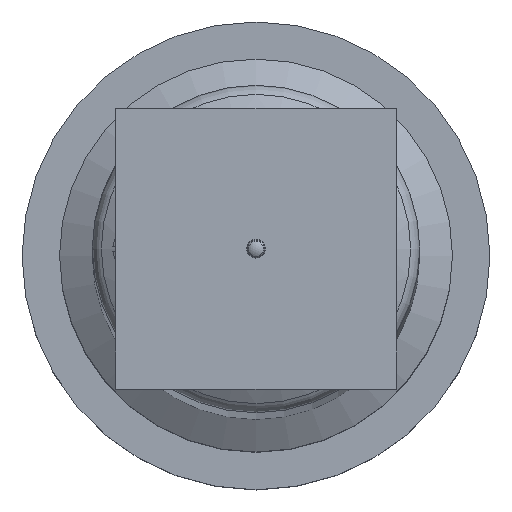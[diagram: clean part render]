
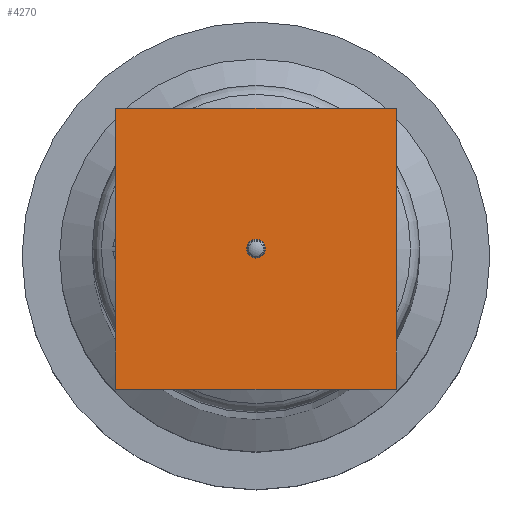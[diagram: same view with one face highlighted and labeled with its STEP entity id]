
A CAD part, top view. The second image highlights one B-rep face of the part: STEP entity #4270.
In plain terms, the highlighted planar face has unit normal (0, 0, -1).
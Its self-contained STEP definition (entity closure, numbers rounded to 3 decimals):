
#26 = EDGE_CURVE ( 'NONE', #6036, #2053, #1557, .T. ) ;
#284 = CARTESIAN_POINT ( 'NONE',  ( 15., -15., 465. ) ) ;
#515 = CARTESIAN_POINT ( 'NONE',  ( -15., 15., 465. ) ) ;
#1139 = CARTESIAN_POINT ( 'NONE',  ( 0., 0., 465. ) ) ;
#1159 = ORIENTED_EDGE ( 'NONE', *, *, #5371, .T. ) ;
#1557 = LINE ( 'NONE', #6182, #5314 ) ;
#1744 = LINE ( 'NONE', #2833, #1901 ) ;
#1757 = VERTEX_POINT ( 'NONE', #515 ) ;
#1901 = VECTOR ( 'NONE', #2303, 1000. ) ;
#2044 = AXIS2_PLACEMENT_3D ( 'NONE', #1139, #2359, #5313 ) ;
#2053 = VERTEX_POINT ( 'NONE', #3255 ) ;
#2303 = DIRECTION ( 'NONE',  ( 0., 1., 0. ) ) ;
#2325 = DIRECTION ( 'NONE',  ( -1., 0., 0. ) ) ;
#2359 = DIRECTION ( 'NONE',  ( 0., 0., -1. ) ) ;
#2487 = ORIENTED_EDGE ( 'NONE', *, *, #6088, .T. ) ;
#2598 = EDGE_LOOP ( 'NONE', ( #4497, #1159, #6162, #2487 ) ) ;
#2681 = VECTOR ( 'NONE', #6504, 1000. ) ;
#2833 = CARTESIAN_POINT ( 'NONE',  ( -15., 15., 465. ) ) ;
#3255 = CARTESIAN_POINT ( 'NONE',  ( 15., -15., 465. ) ) ;
#3454 = CARTESIAN_POINT ( 'NONE',  ( 15., 15., 465. ) ) ;
#3589 = VERTEX_POINT ( 'NONE', #5537 ) ;
#3948 = CARTESIAN_POINT ( 'NONE',  ( 15., 15., 465. ) ) ;
#4270 = ADVANCED_FACE ( 'NONE', ( #5490 ), #5237, .T. ) ;
#4385 = VECTOR ( 'NONE', #2325, 1000. ) ;
#4497 = ORIENTED_EDGE ( 'NONE', *, *, #26, .T. ) ;
#5202 = DIRECTION ( 'NONE',  ( 0., -1., 0. ) ) ;
#5237 = PLANE ( 'NONE',  #2044 ) ;
#5313 = DIRECTION ( 'NONE',  ( -1., 0., 0. ) ) ;
#5314 = VECTOR ( 'NONE', #5202, 1000. ) ;
#5371 = EDGE_CURVE ( 'NONE', #2053, #3589, #5741, .T. ) ;
#5378 = EDGE_CURVE ( 'NONE', #3589, #1757, #1744, .T. ) ;
#5490 = FACE_OUTER_BOUND ( 'NONE', #2598, .T. ) ;
#5537 = CARTESIAN_POINT ( 'NONE',  ( -15., -15., 465. ) ) ;
#5646 = LINE ( 'NONE', #3454, #2681 ) ;
#5741 = LINE ( 'NONE', #284, #4385 ) ;
#6036 = VERTEX_POINT ( 'NONE', #3948 ) ;
#6088 = EDGE_CURVE ( 'NONE', #1757, #6036, #5646, .T. ) ;
#6162 = ORIENTED_EDGE ( 'NONE', *, *, #5378, .T. ) ;
#6182 = CARTESIAN_POINT ( 'NONE',  ( 15., 15., 465. ) ) ;
#6504 = DIRECTION ( 'NONE',  ( 1., 0., 0. ) ) ;
